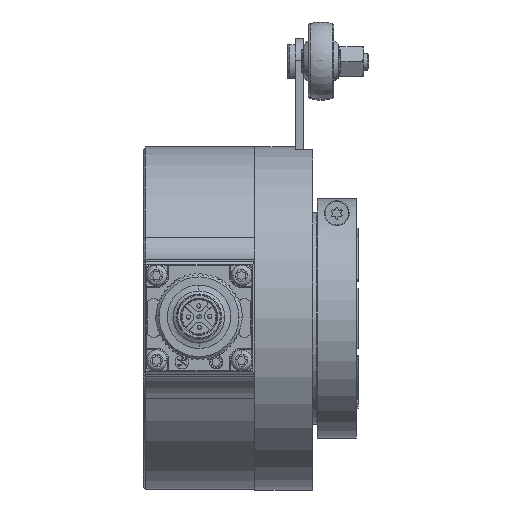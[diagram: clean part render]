
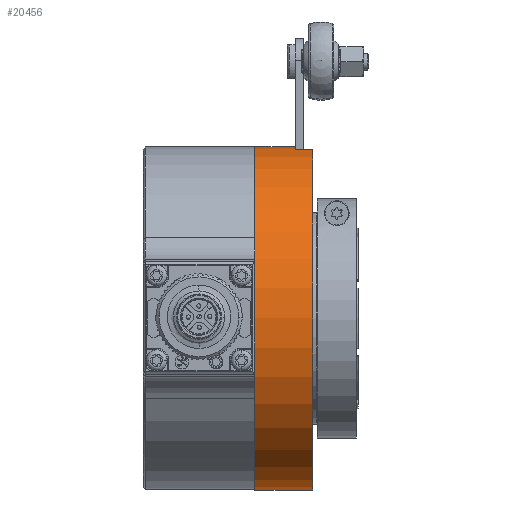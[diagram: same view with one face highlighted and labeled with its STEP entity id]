
A CAD part, top view. The second image highlights one B-rep face of the part: STEP entity #20456.
In plain terms, the highlighted cylindrical face has radius 40.075 mm (diameter 80.15 mm), a partial arc.
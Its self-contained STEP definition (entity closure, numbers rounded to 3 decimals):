
#12 = CARTESIAN_POINT ( 'NONE',  ( 0., -40.075, 0. ) ) ;
#1011 = LINE ( 'NONE', #38547, #17951 ) ;
#1256 = DIRECTION ( 'NONE',  ( -1., 0., 0. ) ) ;
#1304 = VECTOR ( 'NONE', #8560, 1000. ) ;
#3000 = CARTESIAN_POINT ( 'NONE',  ( 0., 40.075, 0. ) ) ;
#4160 = VERTEX_POINT ( 'NONE', #48612 ) ;
#6573 = LINE ( 'NONE', #20651, #34003 ) ;
#6673 = DIRECTION ( 'NONE',  ( 0., 1., 0. ) ) ;
#8560 = DIRECTION ( 'NONE',  ( -1., 0., 0. ) ) ;
#9152 = DIRECTION ( 'NONE',  ( 0., 1., 0. ) ) ;
#9960 = EDGE_LOOP ( 'NONE', ( #58466, #15404, #24937, #24235, #45566, #34652 ) ) ;
#10862 = CARTESIAN_POINT ( 'NONE',  ( 9.5, 0., 0. ) ) ;
#11254 = VERTEX_POINT ( 'NONE', #56418 ) ;
#15404 = ORIENTED_EDGE ( 'NONE', *, *, #46537, .T. ) ;
#16164 = DIRECTION ( 'NONE',  ( -1., 0., 0. ) ) ;
#17951 = VECTOR ( 'NONE', #51778, 1000. ) ;
#20456 = ADVANCED_FACE ( 'NONE', ( #50666 ), #46744, .T. ) ;
#20496 = AXIS2_PLACEMENT_3D ( 'NONE', #51190, #23548, #9152 ) ;
#20651 = CARTESIAN_POINT ( 'NONE',  ( -12.775, 39.468, 6.95 ) ) ;
#22733 = CARTESIAN_POINT ( 'NONE',  ( -12.775, 0., 0. ) ) ;
#23548 = DIRECTION ( 'NONE',  ( -1., 0., 0. ) ) ;
#23960 = AXIS2_PLACEMENT_3D ( 'NONE', #43043, #38569, #51504 ) ;
#24235 = ORIENTED_EDGE ( 'NONE', *, *, #57112, .T. ) ;
#24937 = ORIENTED_EDGE ( 'NONE', *, *, #29927, .T. ) ;
#28868 = EDGE_CURVE ( 'NONE', #11254, #58824, #50582, .T. ) ;
#29927 = EDGE_CURVE ( 'NONE', #42282, #34486, #6573, .T. ) ;
#31963 = CIRCLE ( 'NONE', #20496, 40.075 ) ;
#34003 = VECTOR ( 'NONE', #16164, 1000. ) ;
#34251 = EDGE_CURVE ( 'NONE', #4160, #48426, #1011, .T. ) ;
#34486 = VERTEX_POINT ( 'NONE', #54416 ) ;
#34652 = ORIENTED_EDGE ( 'NONE', *, *, #55792, .F. ) ;
#36552 = DIRECTION ( 'NONE',  ( 0., 1., 0. ) ) ;
#38547 = CARTESIAN_POINT ( 'NONE',  ( -12.775, -40.075, 0. ) ) ;
#38569 = DIRECTION ( 'NONE',  ( -1., 0., 0. ) ) ;
#40976 = CARTESIAN_POINT ( 'NONE',  ( -12.775, 40.075, 0. ) ) ;
#41057 = DIRECTION ( 'NONE',  ( -1., 0., 0. ) ) ;
#42282 = VERTEX_POINT ( 'NONE', #49737 ) ;
#43043 = CARTESIAN_POINT ( 'NONE',  ( 0., 0., 0. ) ) ;
#45566 = ORIENTED_EDGE ( 'NONE', *, *, #28868, .T. ) ;
#46537 = EDGE_CURVE ( 'NONE', #4160, #42282, #31963, .T. ) ;
#46744 = CYLINDRICAL_SURFACE ( 'NONE', #51016, 40.075 ) ;
#48426 = VERTEX_POINT ( 'NONE', #12 ) ;
#48612 = CARTESIAN_POINT ( 'NONE',  ( 13.5, -40.075, 0. ) ) ;
#49737 = CARTESIAN_POINT ( 'NONE',  ( 13.5, 39.468, 6.95 ) ) ;
#50582 = LINE ( 'NONE', #40976, #1304 ) ;
#50666 = FACE_OUTER_BOUND ( 'NONE', #9960, .T. ) ;
#51016 = AXIS2_PLACEMENT_3D ( 'NONE', #22733, #41057, #36552 ) ;
#51190 = CARTESIAN_POINT ( 'NONE',  ( 13.5, 0., 0. ) ) ;
#51504 = DIRECTION ( 'NONE',  ( 0., 1., 0. ) ) ;
#51778 = DIRECTION ( 'NONE',  ( -1., 0., 0. ) ) ;
#52897 = AXIS2_PLACEMENT_3D ( 'NONE', #10862, #1256, #6673 ) ;
#53849 = CIRCLE ( 'NONE', #52897, 40.075 ) ;
#54416 = CARTESIAN_POINT ( 'NONE',  ( 9.5, 39.468, 6.95 ) ) ;
#55792 = EDGE_CURVE ( 'NONE', #48426, #58824, #59425, .T. ) ;
#56418 = CARTESIAN_POINT ( 'NONE',  ( 9.5, 40.075, 0. ) ) ;
#57112 = EDGE_CURVE ( 'NONE', #34486, #11254, #53849, .T. ) ;
#58466 = ORIENTED_EDGE ( 'NONE', *, *, #34251, .F. ) ;
#58824 = VERTEX_POINT ( 'NONE', #3000 ) ;
#59425 = CIRCLE ( 'NONE', #23960, 40.075 ) ;
